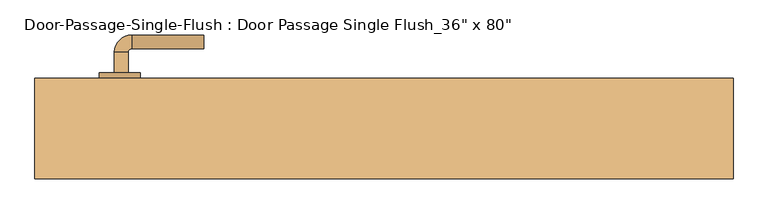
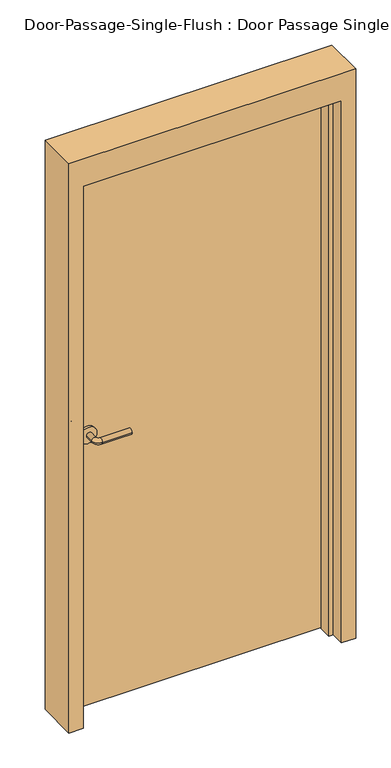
"""IFC4 building model written with IfcOpenShell, lengths in millimetres: door geometry."""

from ifc_helpers import new_model, si_unit, point, frame, frame_2d, origin, origin_with_axes, place, context, project, spatial, polyline, circle_curve, ellipse_curve, trimmed, segment, composite_curve, outline, extrude, faceted_brep, source, transform, mapped, element, save
from ifc_brep_helpers import plane_surface, cylinder_surface, revolved_surface, advanced_brep


def door_cf532139(model_context):
    return source(origin(), model_context, "Body", "SolidModel", [
        advanced_brep(
        [(-392.190625, 20.575, 1016.0), (-372.190625, 20.575, 1016.0), (-372.190625, -9.425, 1016.0), (-392.190625, -9.425, 1016.0), (-367.190625, -14.425, 1016.0), (-367.190625, -34.425, 1016.0), (-262.190625, -34.425, 1016.0), (-262.190625, -14.425, 1016.0)],
        [
            (0, 1, circle_curve(frame((-382.190625, 20.575, 1016.0), z_axis=(0.0, 1.0, 0.0), x_axis=(1.0, 0.0, 0.0)), 10.0)),
            (1, 0, circle_curve(frame((-382.190625, 20.575, 1016.0), z_axis=(0.0, 1.0, 0.0), x_axis=(1.0, 0.0, 0.0)), 10.0)),
            (1, 2),
            (2, 3, circle_curve(frame((-382.190625, -9.425, 1016.0), z_axis=(0.0, 1.0, 0.0), x_axis=(1.0, 0.0, 0.0)), 10.0)),
            (3, 0),
            (3, 2, circle_curve(frame((-382.190625, -9.425, 1016.0), z_axis=(0.0, 1.0, 0.0), x_axis=(1.0, 0.0, 0.0)), 10.0)),
            (4, 5, circle_curve(frame((-367.190625, -24.425, 1016.0), z_axis=(-1.0, 0.0, 0.0), x_axis=(0.0, 1.0, 0.0)), 10.0)),
            (5, 3, circle_curve(frame((-367.190625, -9.425, 1016.0), z_axis=(0.0, 0.0, -1.0), x_axis=(-1.0, 0.0, 0.0)), 25.0)),
            (2, 4, circle_curve(frame((-367.190625, -9.425, 1016.0), z_axis=(0.0, 0.0, 1.0), x_axis=(-1.0, 0.0, 0.0)), 5.0)),
            (5, 4, circle_curve(frame((-367.190625, -24.425, 1016.0), z_axis=(-1.0, 0.0, 0.0), x_axis=(0.0, 1.0, 0.0)), 10.0)),
            (6, 7, circle_curve(frame((-262.190625, -24.425, 1016.0), z_axis=(1.0, 0.0, 0.0), x_axis=(0.0, 1.0, 0.0)), 10.0)),
            (7, 6, circle_curve(frame((-262.190625, -24.425, 1016.0), z_axis=(1.0, 0.0, 0.0), x_axis=(0.0, 1.0, 0.0)), 10.0)),
            (4, 7),
            (6, 5),
        ],
        [
            plane_surface(frame((-382.190625, 20.575, 1016.0), z_axis=(0.0, 1.0, 0.0), x_axis=(0.0, 0.0, 1.0))),
            cylinder_surface(frame((-382.190625, 20.575, 1016.0), z_axis=(0.0, 1.0, 0.0), x_axis=(1.0, 0.0, 0.0)), 10.0),
            revolved_surface(trimmed(ellipse_curve(frame((-382.190625, -9.425, 1016.0), z_axis=(0.0, -1.0, 0.0), x_axis=(1.0, 0.0, 0.0)), 10.0, 10.0), [point((-392.190625, -9.425, 1016.0))], [point((-372.190625, -9.425, 1016.0))], True, "CARTESIAN"), (-367.190625, -9.425, 1016.0), (0.0, 0.0, -1.0)),
            revolved_surface(trimmed(ellipse_curve(frame((-382.190625, -9.425, 1016.0), z_axis=(0.0, -1.0, 0.0), x_axis=(1.0, 0.0, 0.0)), 10.0, 10.0), [point((-372.190625, -9.425, 1016.0))], [point((-392.190625, -9.425, 1016.0))], True, "CARTESIAN"), (-367.190625, -9.425, 1016.0), (0.0, 0.0, -1.0)),
            plane_surface(frame((-262.190625, -24.425, 1016.0), z_axis=(1.0, 0.0, 0.0), x_axis=(0.0, 0.0, 1.0))),
            cylinder_surface(frame((-367.190625, -24.425, 1016.0), z_axis=(-1.0, 0.0, 0.0), x_axis=(0.0, 1.0, 0.0)), 10.0),
        ],
        [
            (0, [[1, 2]]),
            (1, [[3, 4, 5, -2]]),
            (1, [[-5, 6, -3, -1]]),
            (2, [[7, 8, -4, 9]]),
            (3, [[10, -9, -6, -8]]),
            (4, [[11, 12]]),
            (5, [[13, -11, 14, -7]]),
            (5, [[-14, -12, -13, -10]]),
        ],
    ),
        extrude(outline(composite_curve([segment(trimmed(circle_curve(frame_2d((1016.0, -384.690625)), 30.0), [point((1016.0, -414.690625))], [point((1016.0, -354.690625))], False, "CARTESIAN"), True, "CONTINUOUS"), segment(trimmed(circle_curve(frame_2d((1016.0, -384.690625)), 30.0), [point((1016.0, -354.690625))], [point((1016.0, -414.690625))], False, "CARTESIAN"), True, "CONTINUOUS")], self_intersect=False)), frame((0.0, 20.575, 0.0), z_axis=(0.0, 1.0, 0.0), x_axis=(0.0, 0.0, 1.0)), (0.0, 0.0, 1.0), 8.0),
        advanced_brep(
        [(-392.190625, 81.025, 1016.0), (-372.190625, 81.025, 1016.0), (-392.190625, 111.025, 1016.0), (-372.190625, 111.025, 1016.0), (-367.190625, 116.025, 1016.0), (-367.190625, 136.025, 1016.0), (-262.190625, 136.025, 1016.0), (-262.190625, 116.025, 1016.0)],
        [
            (0, 1, circle_curve(frame((-382.190625, 81.025, 1016.0), z_axis=(0.0, -1.0, 0.0), x_axis=(1.0, 0.0, 0.0)), 10.0)),
            (1, 0, circle_curve(frame((-382.190625, 81.025, 1016.0), z_axis=(0.0, -1.0, 0.0), x_axis=(1.0, 0.0, 0.0)), 10.0)),
            (0, 2),
            (2, 3, circle_curve(frame((-382.190625, 111.025, 1016.0), z_axis=(0.0, -1.0, 0.0), x_axis=(1.0, 0.0, 0.0)), 10.0)),
            (3, 1),
            (3, 2, circle_curve(frame((-382.190625, 111.025, 1016.0), z_axis=(0.0, -1.0, 0.0), x_axis=(1.0, 0.0, 0.0)), 10.0)),
            (4, 3, circle_curve(frame((-367.190625, 111.025, 1016.0), z_axis=(0.0, 0.0, 1.0), x_axis=(-1.0, 0.0, 0.0)), 5.0)),
            (2, 5, circle_curve(frame((-367.190625, 111.025, 1016.0), z_axis=(0.0, 0.0, -1.0), x_axis=(-1.0, 0.0, 0.0)), 25.0)),
            (5, 4, circle_curve(frame((-367.190625, 126.025, 1016.0), z_axis=(-1.0, 0.0, 0.0), x_axis=(0.0, -1.0, 0.0)), 10.0)),
            (4, 5, circle_curve(frame((-367.190625, 126.025, 1016.0), z_axis=(-1.0, 0.0, 0.0), x_axis=(0.0, -1.0, 0.0)), 10.0)),
            (6, 7, circle_curve(frame((-262.190625, 126.025, 1016.0), z_axis=(1.0, 0.0, 0.0), x_axis=(0.0, -1.0, 0.0)), 10.0)),
            (7, 6, circle_curve(frame((-262.190625, 126.025, 1016.0), z_axis=(1.0, 0.0, 0.0), x_axis=(0.0, -1.0, 0.0)), 10.0)),
            (5, 6),
            (7, 4),
        ],
        [
            plane_surface(frame((-382.190625, 81.025, 1016.0), z_axis=(0.0, -1.0, 0.0), x_axis=(0.0, 0.0, 1.0))),
            cylinder_surface(frame((-382.190625, 81.025, 1016.0), z_axis=(0.0, -1.0, 0.0), x_axis=(1.0, 0.0, 0.0)), 10.0),
            revolved_surface(trimmed(ellipse_curve(frame((-382.190625, 111.025, 1016.0), z_axis=(0.0, -1.0, 0.0), x_axis=(1.0, 0.0, 0.0)), 10.0, 10.0), [point((-392.190625, 111.025, 1016.0))], [point((-372.190625, 111.025, 1016.0))], True, "CARTESIAN"), (-367.190625, 111.025, 1016.0), (0.0, 0.0, -1.0)),
            revolved_surface(trimmed(ellipse_curve(frame((-382.190625, 111.025, 1016.0), z_axis=(0.0, -1.0, 0.0), x_axis=(1.0, 0.0, 0.0)), 10.0, 10.0), [point((-372.190625, 111.025, 1016.0))], [point((-392.190625, 111.025, 1016.0))], True, "CARTESIAN"), (-367.190625, 111.025, 1016.0), (0.0, 0.0, -1.0)),
            plane_surface(frame((-262.190625, 126.025, 1016.0), z_axis=(1.0, 0.0, 0.0), x_axis=(0.0, 0.0, 1.0))),
            cylinder_surface(frame((-367.190625, 126.025, 1016.0), z_axis=(-1.0, 0.0, 0.0), x_axis=(0.0, -1.0, 0.0)), 10.0),
        ],
        [
            (0, [[1, 2]]),
            (1, [[-1, 3, 4, 5]]),
            (1, [[-2, -5, 6, -3]]),
            (2, [[7, -4, 8, 9]]),
            (3, [[-8, -6, -7, 10]]),
            (4, [[11, 12]]),
            (5, [[-9, 13, -12, 14]]),
            (5, [[-10, -14, -11, -13]]),
        ],
    ),
        extrude(outline(composite_curve([segment(trimmed(circle_curve(frame_2d((1016.0, -384.690625)), 30.0), [point((1016.0, -414.690625))], [point((1016.0, -354.690625))], False, "CARTESIAN"), True, "CONTINUOUS"), segment(trimmed(circle_curve(frame_2d((1016.0, -384.690625)), 30.0), [point((1016.0, -354.690625))], [point((1016.0, -414.690625))], False, "CARTESIAN"), True, "CONTINUOUS")], self_intersect=False)), frame((0.0, 73.025, 0.0), z_axis=(0.0, 1.0, 0.0), x_axis=(0.0, 0.0, 1.0)), (0.0, 0.0, 1.0), 8.0),
        faceted_brep([(457.2, 23.8125, 0.0), (457.2, 73.025, 0.0), (508.0, 73.025, 0.0), (508.0, -73.025, 0.0), (457.2, -73.025, 0.0), (457.2, -23.8125, 0.0), (441.325, -23.8125, 0.0), (441.325, 23.8125, 0.0), (457.2, 23.8125, 2032.0), (457.2, 73.025, 2032.0), (-457.2, 73.025, 2032.0), (-457.2, 73.025, 0.0), (-508.0, 73.025, 0.0), (-508.0, 73.025, 2133.6), (508.0, 73.025, 2133.6), (508.0, -73.025, 2133.6), (-508.0, -73.025, 2133.6), (-508.0, -73.025, 0.0), (-457.2, -73.025, 0.0), (-457.2, -73.025, 2032.0), (457.2, -73.025, 2032.0), (457.2, -23.8125, 2032.0), (-457.2, -23.8125, 2032.0), (-457.2, -23.8125, 0.0), (-441.325, -23.8125, 0.0), (-441.325, -23.8125, 2016.125), (441.325, -23.8125, 2016.125), (441.325, 23.8125, 2016.125), (-441.325, 23.8125, 2016.125), (-441.325, 23.8125, 0.0), (-457.2, 23.8125, 0.0), (-457.2, 23.8125, 2032.0)], [[[0, 1, 2, 3, 4, 5, 6, 7]], [[1, 0, 8, 9]], [[2, 1, 9, 10, 11, 12, 13, 14]], [[3, 2, 14, 15]], [[4, 3, 15, 16, 17, 18, 19, 20]], [[5, 4, 20, 21]], [[6, 5, 21, 22, 23, 24, 25, 26]], [[7, 6, 26, 27]], [[0, 7, 27, 28, 29, 30, 31, 8]], [[9, 8, 31, 10]], [[20, 19, 22, 21]], [[26, 25, 28, 27]], [[12, 11, 30, 29, 24, 23, 18, 17]], [[11, 10, 31, 30]], [[13, 12, 17, 16]], [[19, 18, 23, 22]], [[25, 24, 29, 28]], [[15, 14, 13, 16]]]),
        extrude(outline(polyline([(457.2, 28.575), (-457.2, 28.575), (-457.2, 73.025), (457.2, 73.025), (457.2, 28.575)])), origin_with_axes(), (0.0, 0.0, 1.0), 2032.0),
    ])


if __name__ == "__main__":
    model = new_model("IFC4")
    model_context = context("Model", 3, world=origin())
    ifc_project = project(units=[si_unit("LENGTHUNIT", "METRE", prefix="MILLI")], contexts=[model_context])
    site = spatial("IfcSite", under=ifc_project)
    building = spatial("IfcBuilding", under=site)
    placement = place(None, origin())
    door_shape = door_cf532139(model_context)
    element("IfcDoor", 1, ObjectType="Door-Passage-Single-Flush : Door Passage Single Flush_36\" x 80\"", at=placement, inside=building, context=model_context, shape_type="MappedRepresentation", body=[
        mapped(door_shape, transform((0.0, 0.0, 0.0), x_axis=(1.0, 0.0, 0.0), y_axis=(0.0, 1.0, 0.0), z_axis=(0.0, 0.0, 1.0))),
    ])
    save(model, "model.ifc")
